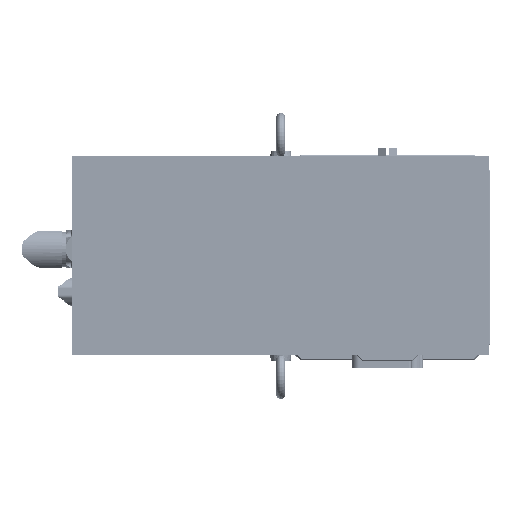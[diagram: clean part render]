
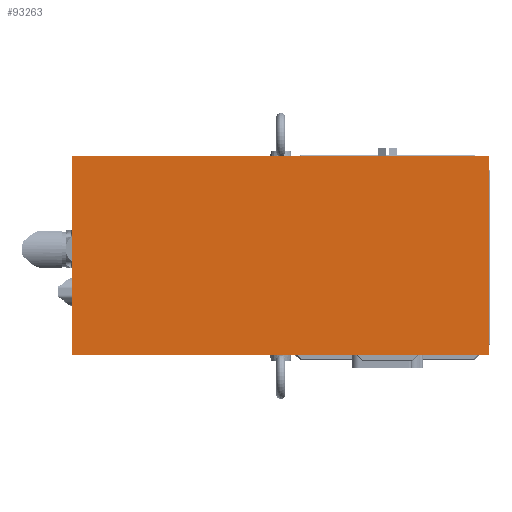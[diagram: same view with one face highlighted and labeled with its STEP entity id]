
A CAD part, top view. The second image highlights one B-rep face of the part: STEP entity #93263.
In plain terms, the highlighted planar face has unit normal (0, 0, 1).
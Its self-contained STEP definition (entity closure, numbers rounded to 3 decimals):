
#93224=CARTESIAN_POINT('',(-75.5,-77.,621.));
#93225=DIRECTION('',(0.,-1.,0.));
#93226=DIRECTION('',(-0.,0.,1.));
#93227=AXIS2_PLACEMENT_3D('',#93224,#93226,#93225);
#93228=PLANE('',#93227);
#93229=CARTESIAN_POINT('',(72.,70.5,621.));
#93230=VERTEX_POINT('',#93229);
#93231=CARTESIAN_POINT('',(-223.,70.5,621.));
#93232=VERTEX_POINT('',#93231);
#93233=CARTESIAN_POINT('',(72.,70.5,621.));
#93234=DIRECTION('',(-1.,0.,0.));
#93235=VECTOR('',#93234,295.);
#93236=LINE('',#93233,#93235);
#93237=EDGE_CURVE('',#93230,#93232,#93236,.T.);
#93238=ORIENTED_EDGE('E1',*,*,#93237,.T.);
#93239=CARTESIAN_POINT('',(-223.,-70.5,621.));
#93240=VERTEX_POINT('',#93239);
#93241=CARTESIAN_POINT('',(-223.,70.5,621.));
#93242=DIRECTION('',(0.,-1.,0.));
#93243=VECTOR('',#93242,141.);
#93244=LINE('',#93241,#93243);
#93245=EDGE_CURVE('',#93232,#93240,#93244,.T.);
#93246=ORIENTED_EDGE('E2',*,*,#93245,.T.);
#93247=CARTESIAN_POINT('',(72.,-70.5,621.));
#93248=VERTEX_POINT('',#93247);
#93249=CARTESIAN_POINT('',(-223.,-70.5,621.));
#93250=DIRECTION('',(1.,0.,0.));
#93251=VECTOR('',#93250,295.);
#93252=LINE('',#93249,#93251);
#93253=EDGE_CURVE('',#93240,#93248,#93252,.T.);
#93254=ORIENTED_EDGE('E3',*,*,#93253,.T.);
#93255=CARTESIAN_POINT('',(72.,-70.5,621.));
#93256=DIRECTION('',(0.,1.,0.));
#93257=VECTOR('',#93256,141.);
#93258=LINE('',#93255,#93257);
#93259=EDGE_CURVE('',#93248,#93230,#93258,.T.);
#93260=ORIENTED_EDGE('E4',*,*,#93259,.T.);
#93261=EDGE_LOOP('',(#93238,#93246,#93254,#93260));
#93262=FACE_OUTER_BOUND('',#93261,.T.);
#93263=ADVANCED_FACE('F1',(#93262),#93228,.T.);
